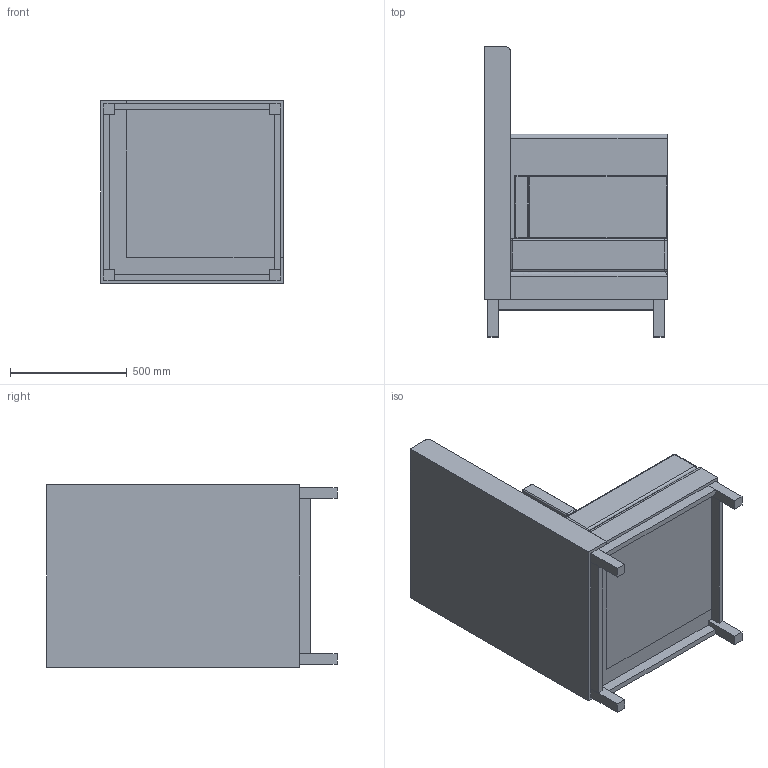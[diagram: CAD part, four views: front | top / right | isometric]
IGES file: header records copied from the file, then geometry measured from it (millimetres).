
Start section: SolidWorks IGES file using analytic representation for surfaces
Global section: file name: P:\3D CAD BLOCKS\ARTHUR CITYSCAPE\Dual Height Plain Corner LH\IGS\ART-DH-PLAIN-LH-ART-CITY-CORNER.IGS; native system: SolidWorks 2012; preprocessor: SolidWorks 2012; author: tom; date: 160523.090351; units: millimetre
Bounding box: 780 x 1240 x 780 mm (x, y, z)
Surface area: 7008655.6 mm2 (no closed solid volume)
Topology: 0 solids, 0 shells, 145 faces, 654 edges, 648 vertices
Faces by surface type: bspline 81, revolution 64
